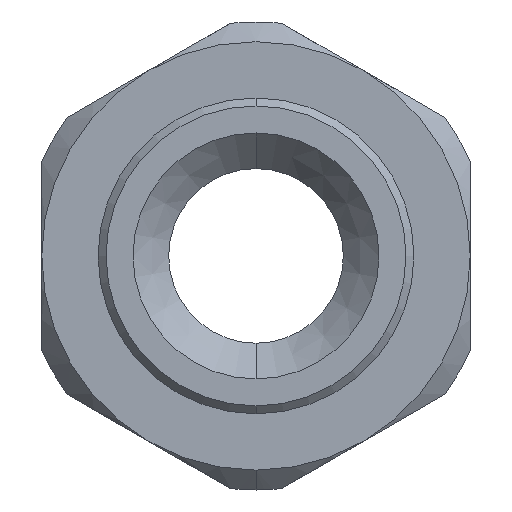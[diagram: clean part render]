
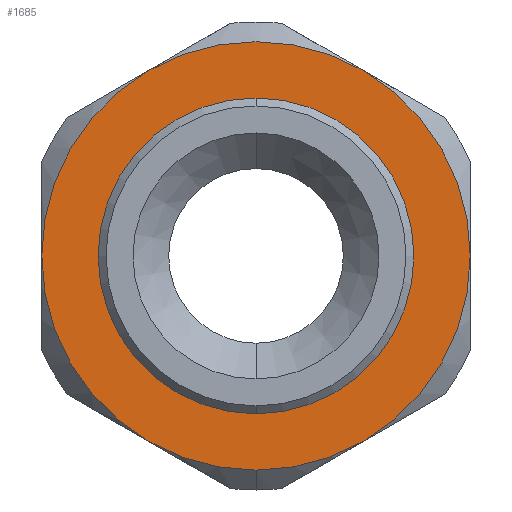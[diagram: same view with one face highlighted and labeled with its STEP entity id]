
A CAD part, front view. The second image highlights one B-rep face of the part: STEP entity #1685.
In plain terms, the highlighted planar face has unit normal (0, -1, 0).
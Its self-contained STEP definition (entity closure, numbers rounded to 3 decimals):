
#41 = VERTEX_POINT ( 'NONE', #1340 ) ;
#106 = VERTEX_POINT ( 'NONE', #1077 ) ;
#109 = VERTEX_POINT ( 'NONE', #1076 ) ;
#110 = VERTEX_POINT ( 'NONE', #1075 ) ;
#112 = VERTEX_POINT ( 'NONE', #1074 ) ;
#114 = VERTEX_POINT ( 'NONE', #1073 ) ;
#205 = EDGE_LOOP ( 'NONE', ( #304, #302 ) ) ;
#285 = EDGE_LOOP ( 'NONE', ( #305, #301, #303, #314, #306, #307, #308 ) ) ;
#301 = ORIENTED_EDGE ( 'NONE', *, *, #1399, .T. ) ;
#302 = ORIENTED_EDGE ( 'NONE', *, *, #1401, .F. ) ;
#303 = ORIENTED_EDGE ( 'NONE', *, *, #1403, .T. ) ;
#304 = ORIENTED_EDGE ( 'NONE', *, *, #1380, .F. ) ;
#305 = ORIENTED_EDGE ( 'NONE', *, *, #1398, .T. ) ;
#306 = ORIENTED_EDGE ( 'NONE', *, *, #1405, .T. ) ;
#307 = ORIENTED_EDGE ( 'NONE', *, *, #1538, .T. ) ;
#308 = ORIENTED_EDGE ( 'NONE', *, *, #1406, .T. ) ;
#314 = ORIENTED_EDGE ( 'NONE', *, *, #1404, .T. ) ;
#831 = DIRECTION ( 'NONE',  ( 0., 0., -1. ) ) ;
#832 = DIRECTION ( 'NONE',  ( 0., -1., 0. ) ) ;
#833 = CARTESIAN_POINT ( 'NONE',  ( 0., 1., 0. ) ) ;
#834 = DIRECTION ( 'NONE',  ( 0., 0., -1. ) ) ;
#835 = DIRECTION ( 'NONE',  ( 0., -1., 0. ) ) ;
#836 = CARTESIAN_POINT ( 'NONE',  ( 0., 1., 0. ) ) ;
#837 = DIRECTION ( 'NONE',  ( 0., 0., -1. ) ) ;
#838 = DIRECTION ( 'NONE',  ( 0., -1., 0. ) ) ;
#839 = CARTESIAN_POINT ( 'NONE',  ( 0., 1., 0. ) ) ;
#840 = DIRECTION ( 'NONE',  ( 0., 0., -1. ) ) ;
#841 = DIRECTION ( 'NONE',  ( 0., -1., 0. ) ) ;
#845 = CARTESIAN_POINT ( 'NONE',  ( 0., 1., 0. ) ) ;
#846 = DIRECTION ( 'NONE',  ( 0., 0., -1. ) ) ;
#847 = DIRECTION ( 'NONE',  ( 0., -1., 0. ) ) ;
#848 = CARTESIAN_POINT ( 'NONE',  ( 0., 1., 0. ) ) ;
#852 = DIRECTION ( 'NONE',  ( 0., 0., -1. ) ) ;
#853 = DIRECTION ( 'NONE',  ( 0., -1., 0. ) ) ;
#854 = CARTESIAN_POINT ( 'NONE',  ( 0., 1., 0. ) ) ;
#855 = DIRECTION ( 'NONE',  ( 0., 0., -1. ) ) ;
#856 = DIRECTION ( 'NONE',  ( 0., -1., 0. ) ) ;
#857 = CARTESIAN_POINT ( 'NONE',  ( 0., 1., 0. ) ) ;
#909 = DIRECTION ( 'NONE',  ( 0., 0., -1. ) ) ;
#910 = DIRECTION ( 'NONE',  ( 0., -1., 0. ) ) ;
#917 = CARTESIAN_POINT ( 'NONE',  ( 0., 1., 0. ) ) ;
#1073 = CARTESIAN_POINT ( 'NONE',  ( -6.75, 1., -11.691 ) ) ;
#1074 = CARTESIAN_POINT ( 'NONE',  ( -13.5, 1., 0. ) ) ;
#1075 = CARTESIAN_POINT ( 'NONE',  ( -6.75, 1., 11.691 ) ) ;
#1076 = CARTESIAN_POINT ( 'NONE',  ( 6.75, 1., 11.691 ) ) ;
#1077 = CARTESIAN_POINT ( 'NONE',  ( 13.5, 1., 0. ) ) ;
#1206 = AXIS2_PLACEMENT_3D ( 'NONE', #833, #832, #831 ) ;
#1207 = AXIS2_PLACEMENT_3D ( 'NONE', #848, #847, #846 ) ;
#1208 = AXIS2_PLACEMENT_3D ( 'NONE', #845, #841, #840 ) ;
#1209 = AXIS2_PLACEMENT_3D ( 'NONE', #854, #853, #852 ) ;
#1212 = AXIS2_PLACEMENT_3D ( 'NONE', #836, #835, #834 ) ;
#1219 = AXIS2_PLACEMENT_3D ( 'NONE', #857, #856, #855 ) ;
#1230 = AXIS2_PLACEMENT_3D ( 'NONE', #917, #910, #909 ) ;
#1244 = AXIS2_PLACEMENT_3D ( 'NONE', #839, #838, #837 ) ;
#1266 = AXIS2_PLACEMENT_3D ( 'NONE', #2108, #2107, #2106 ) ;
#1340 = CARTESIAN_POINT ( 'NONE',  ( 0., 1., -9.95 ) ) ;
#1380 = EDGE_CURVE ( 'NONE', #41, #2317, #1533, .T. ) ;
#1398 = EDGE_CURVE ( 'NONE', #106, #109, #1702, .T. ) ;
#1399 = EDGE_CURVE ( 'NONE', #109, #110, #1559, .T. ) ;
#1401 = EDGE_CURVE ( 'NONE', #2317, #41, #1562, .T. ) ;
#1403 = EDGE_CURVE ( 'NONE', #110, #112, #1561, .T. ) ;
#1404 = EDGE_CURVE ( 'NONE', #112, #114, #1554, .T. ) ;
#1405 = EDGE_CURVE ( 'NONE', #114, #2301, #1553, .T. ) ;
#1406 = EDGE_CURVE ( 'NONE', #2304, #106, #1556, .T. ) ;
#1533 = CIRCLE ( 'NONE', #1230, 9.95 ) ;
#1538 = EDGE_CURVE ( 'NONE', #2301, #2304, #1605, .T. ) ;
#1553 = CIRCLE ( 'NONE', #1212, 13.5 ) ;
#1554 = CIRCLE ( 'NONE', #1244, 13.5 ) ;
#1556 = CIRCLE ( 'NONE', #1206, 13.5 ) ;
#1559 = CIRCLE ( 'NONE', #1209, 13.5 ) ;
#1561 = CIRCLE ( 'NONE', #1208, 13.5 ) ;
#1562 = CIRCLE ( 'NONE', #1207, 9.95 ) ;
#1605 = CIRCLE ( 'NONE', #1266, 13.5 ) ;
#1685 = ADVANCED_FACE ( 'NONE', ( #2384, #2434 ), #1871, .F. ) ;
#1702 = CIRCLE ( 'NONE', #1219, 13.5 ) ;
#1778 = CARTESIAN_POINT ( 'NONE',  ( 0., 1., 9.95 ) ) ;
#1790 = CARTESIAN_POINT ( 'NONE',  ( 6.75, 1., -11.691 ) ) ;
#1793 = CARTESIAN_POINT ( 'NONE',  ( 0., 1., -13.5 ) ) ;
#1868 = DIRECTION ( 'NONE',  ( 0., 0., 1. ) ) ;
#1869 = DIRECTION ( 'NONE',  ( 0., 1., 0. ) ) ;
#1870 = CARTESIAN_POINT ( 'NONE',  ( -14.75, 1., 0. ) ) ;
#1871 = PLANE ( 'NONE',  #2439 ) ;
#2106 = DIRECTION ( 'NONE',  ( 0., 0., -1. ) ) ;
#2107 = DIRECTION ( 'NONE',  ( 0., -1., 0. ) ) ;
#2108 = CARTESIAN_POINT ( 'NONE',  ( 0., 1., 0. ) ) ;
#2301 = VERTEX_POINT ( 'NONE', #1793 ) ;
#2304 = VERTEX_POINT ( 'NONE', #1790 ) ;
#2317 = VERTEX_POINT ( 'NONE', #1778 ) ;
#2384 = FACE_BOUND ( 'NONE', #205, .T. ) ;
#2434 = FACE_OUTER_BOUND ( 'NONE', #285, .T. ) ;
#2439 = AXIS2_PLACEMENT_3D ( 'NONE', #1870, #1869, #1868 ) ;
